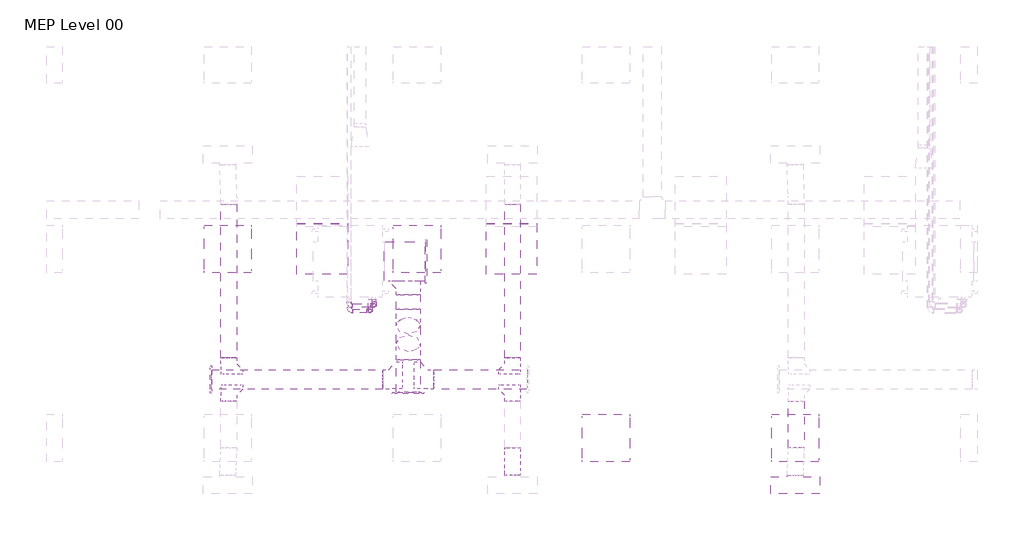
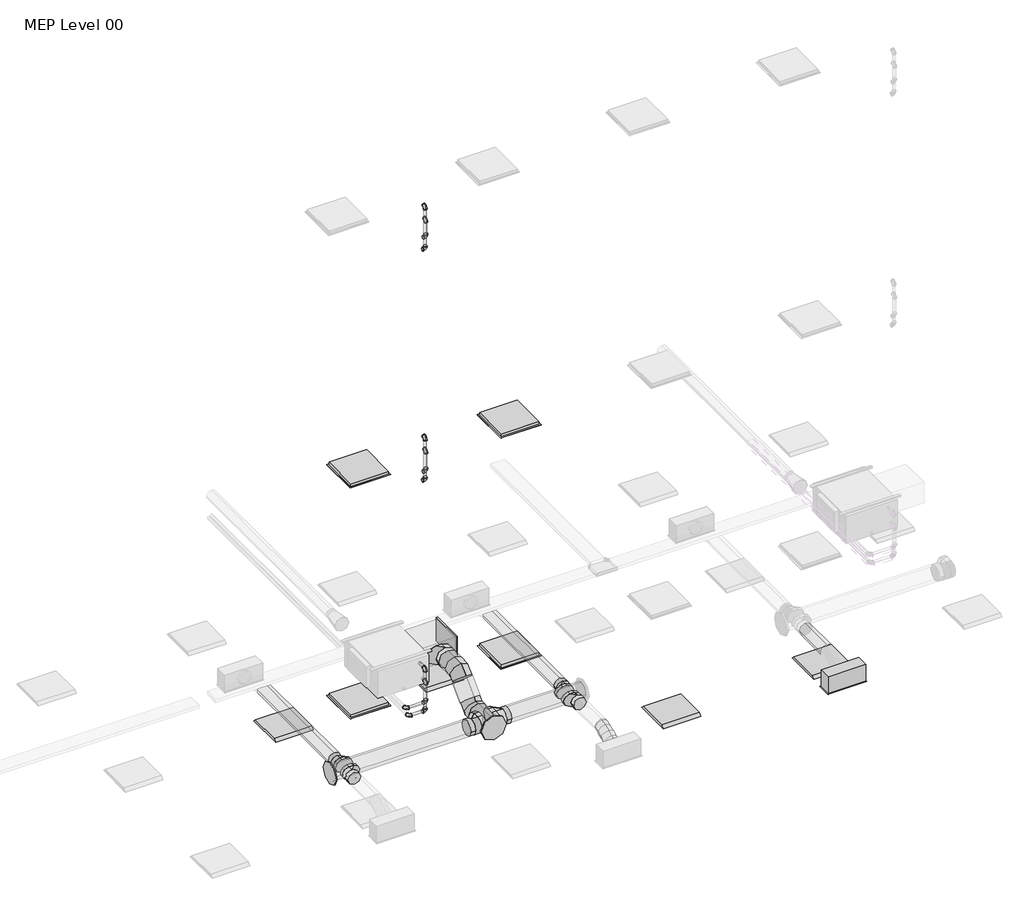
# One storey, part 8 of 33: 14 pipe fittings, 12 duct fittings, 10 duct segments, 10 pipe segments, 5 air terminals, 4 light fixtures.
"""IFC4 building model written with IfcOpenShell, lengths in millimetres."""

from ifc_helpers import new_model, si_unit, point, frame, frame_2d, origin, place, context, project, spatial, polyline, circle_curve, ellipse_curve, trimmed, segment, composite_curve, outline, extrude, transform, mapped, element, save
from ifc_brep_helpers import plane_surface, cylinder_surface, advanced_brep
from components import return_grille_rectangular_hosted_standard_7b12617c, supply_diffuser_with_plenum_linear_slot_hosted_8c379eed, dw144_rectangular_blank_end_standard_8fde7d16, dw144_round_blank_end_standard_f82b0856, dw144_round_blank_end_standard_9aa061e7, dw144_round_segmented_bend_slip_joint_standard_8b80c5ae, dw144_round_shoe_branch_slip_joint_standard_15a2edd8, dw144_round_shoe_branch_slip_joint_standard_559552f4, dw144_round_shoe_branch_slip_joint_standard_7ba9e4ed, dw144_round_shoe_branch_slip_joint_standard_67b64720, light_fixture_600x600_230_1c7c1157, light_fixture_600x600_230_b730b5ca, elbow_threaded_gmi_standard_b4aa7741

model = new_model("IFC4")

# Units and contexts
model_context = context("Model", 3, world=origin())
ifc_project = project(units=[si_unit("LENGTHUNIT", "METRE", prefix="MILLI")], contexts=[model_context])

# Site, building, storey
site = spatial("IfcSite", under=ifc_project)
building = spatial("IfcBuilding", under=site)
storey = spatial("IfcBuildingStorey", under=building, Name="MEP Level 00", Elevation=0.0)

# Air terminals
placement = place(None, origin())
return_grille_rectangular_hosted_standard_shape = return_grille_rectangular_hosted_standard_7b12617c(model_context)
element("IfcAirTerminal", 1, ObjectType="Return Grille - Rectangular - Hosted : Standard", at=placement, inside=storey, context=model_context, shape_type="MappedRepresentation", body=[
    mapped(return_grille_rectangular_hosted_standard_shape, transform((17562.2000027, 3963.2000004, 2800.0), x_axis=(1.0, 0.0, 0.0), y_axis=(0.0, -1.0, 0.0), z_axis=(0.0, 0.0, -1.0))),
])
element("IfcAirTerminal", 2, ObjectType="Return Grille - Rectangular - Hosted : Standard", at=placement, inside=storey, context=model_context, shape_type="MappedRepresentation", body=[
    mapped(return_grille_rectangular_hosted_standard_shape, transform((19962.2000027, 3963.2000004, 2800.0), x_axis=(1.0, 0.0, 0.0), y_axis=(0.0, -1.0, 0.0), z_axis=(0.0, 0.0, -1.0))),
])
element("IfcAirTerminal", 3, ObjectType="Return Grille - Rectangular - Hosted : Standard", at=placement, inside=storey, context=model_context, shape_type="MappedRepresentation", body=[
    mapped(return_grille_rectangular_hosted_standard_shape, transform((17562.2000027, 3963.2000004, 6700.0), x_axis=(1.0, 0.0, 0.0), y_axis=(0.0, -1.0, 0.0), z_axis=(0.0, 0.0, -1.0))),
])
element("IfcAirTerminal", 4, ObjectType="Return Grille - Rectangular - Hosted : Standard", at=placement, inside=storey, context=model_context, shape_type="MappedRepresentation", body=[
    mapped(return_grille_rectangular_hosted_standard_shape, transform((19962.2000027, 3963.2000004, 6700.0), x_axis=(1.0, 0.0, 0.0), y_axis=(0.0, -1.0, 0.0), z_axis=(0.0, 0.0, -1.0))),
])
supply_diffuser_with_plenum_linear_slot_hosted_shape = supply_diffuser_with_plenum_linear_slot_hosted_8c379eed(model_context)
element("IfcAirTerminal", 5, ObjectType="Supply Diffuser with Plenum - Linear Slot - Hosted : 600mmx193.8mm-200 In Inlet  4-Slot", at=placement, inside=storey, context=model_context, shape_type="MappedRepresentation", body=[
    mapped(supply_diffuser_with_plenum_linear_slot_hosted_shape, transform((23562.2000027, 963.2000004, 2800.0), x_axis=(1.0, 0.0, 0.0), y_axis=(0.0, -1.0, 0.0), z_axis=(0.0, 0.0, -1.0))),
])

# Duct fittings
dw144_rectangular_blank_end_standard_shape = dw144_rectangular_blank_end_standard_8fde7d16(model_context)
element("IfcDuctFitting", 6, ObjectType="DW144 Rectangular Blank End : Standard", at=placement, inside=storey, context=model_context, shape_type="MappedRepresentation", body=[
    mapped(dw144_rectangular_blank_end_standard_shape, transform((18866.2561025, 3806.0000004, 3476.3911538), x_axis=(1.0, 0.0, 0.0), y_axis=(0.0, 1.0, 0.0), z_axis=(0.0, 0.0, 1.0))),
])
dw144_round_blank_end_standard_shape = dw144_round_blank_end_standard_f82b0856(model_context)
element("IfcDuctFitting", 7, ObjectType="DW144 Round Blank End : Standard", at=placement, inside=storey, context=model_context, shape_type="MappedRepresentation", body=[
    mapped(dw144_round_blank_end_standard_shape, transform((18651.4561025, 2142.9916128, 3072.2088531), x_axis=(0.0, -1.0, 0.0), y_axis=(1.0, 0.0, 0.0), z_axis=(0.0, 0.0, 1.0))),
])
dw144_round_blank_end_standard_2_shape = dw144_round_blank_end_standard_9aa061e7(model_context)
element("IfcDuctFitting", 8, ObjectType="DW144 Round Blank End : Standard", at=placement, inside=storey, context=model_context, shape_type="MappedRepresentation", body=[
    mapped(dw144_round_blank_end_standard_2_shape, transform((16161.4561025, 2306.5018192, 3072.2088531), x_axis=(-1.0, 0.0, 0.0), y_axis=(0.0, -1.0, 0.0), z_axis=(0.0, 0.0, 1.0))),
])
dw144_round_segmented_bend_slip_joint_standard_shape = dw144_round_segmented_bend_slip_joint_standard_8b80c5ae(model_context)
element("IfcDuctFitting", 9, ObjectType="DW144 Round Segmented Bend - Slip Joint : Standard", at=placement, inside=storey, context=model_context, shape_type="MappedRepresentation", body=[
    mapped(dw144_round_segmented_bend_slip_joint_standard_shape, transform((18651.4561025, 2678.6338536, 3072.2088531), x_axis=(0.0, -0.7071067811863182, -0.7071067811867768), y_axis=(0.0, 0.7071067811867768, -0.7071067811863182), z_axis=(1.0, 0.0, 0.0))),
])
element("IfcDuctFitting", 10, ObjectType="DW144 Round Segmented Bend - Slip Joint : Standard", at=placement, inside=storey, context=model_context, shape_type="MappedRepresentation", body=[
    mapped(dw144_round_segmented_bend_slip_joint_standard_shape, transform((18651.4561025, 3076.0000004, 3469.575), x_axis=(0.0, -1.0, 0.0), y_axis=(0.0, 0.0, 1.0), z_axis=(-1.0, 0.0, 0.0))),
])
dw144_round_shoe_branch_slip_joint_standard_shape = dw144_round_shoe_branch_slip_joint_standard_15a2edd8(model_context)
element("IfcDuctFitting", 11, ObjectType="DW144 Round Shoe Branch - Slip Joint : Standard", at=placement, inside=storey, context=model_context, shape_type="MappedRepresentation", body=[
    mapped(dw144_round_shoe_branch_slip_joint_standard_shape, transform((16373.9000022, 2181.5018192, 3072.2088531), x_axis=(0.0, -1.0, 0.0), y_axis=(-1.0, 0.0, 0.0), z_axis=(0.0, 0.0, -1.0))),
])
element("IfcDuctFitting", 12, ObjectType="DW144 Round Shoe Branch - Slip Joint : Standard", at=placement, inside=storey, context=model_context, shape_type="MappedRepresentation", body=[
    mapped(dw144_round_shoe_branch_slip_joint_standard_shape, transform((16373.9000022, 2431.5018192, 3072.2088531), x_axis=(0.0, 1.0, 0.0), y_axis=(-1.0, 0.0, 0.0), z_axis=(0.0, 0.0, 1.0))),
])
dw144_round_shoe_branch_slip_joint_standard_2_shape = dw144_round_shoe_branch_slip_joint_standard_559552f4(model_context)
element("IfcDuctFitting", 13, ObjectType="DW144 Round Shoe Branch - Slip Joint : Standard", at=placement, inside=storey, context=model_context, shape_type="MappedRepresentation", body=[
    mapped(dw144_round_shoe_branch_slip_joint_standard_2_shape, transform((19973.9000022, 2181.5018192, 3072.2088531), x_axis=(0.0, -1.0, 0.0), y_axis=(-1.0, 0.0, 0.0), z_axis=(0.0, 0.0, -1.0))),
])
element("IfcDuctFitting", 14, ObjectType="DW144 Round Shoe Branch - Slip Joint : Standard", at=placement, inside=storey, context=model_context, shape_type="MappedRepresentation", body=[
    mapped(dw144_round_shoe_branch_slip_joint_standard_2_shape, transform((19973.9000022, 2431.5018192, 3072.2088531), x_axis=(0.0, 1.0, 0.0), y_axis=(-1.0, 0.0, 0.0), z_axis=(0.0, 0.0, 1.0))),
])
dw144_round_shoe_branch_slip_joint_standard_3_shape = dw144_round_shoe_branch_slip_joint_standard_7ba9e4ed(model_context)
element("IfcDuctFitting", 15, ObjectType="DW144 Round Shoe Branch - Slip Joint : Standard", at=placement, inside=storey, context=model_context, shape_type="MappedRepresentation", body=[
    mapped(dw144_round_shoe_branch_slip_joint_standard_3_shape, transform((18651.4561025, 3556.0000004, 3469.575), x_axis=(0.0, -1.0, 0.0), y_axis=(-1.0, 0.0, 0.0), z_axis=(0.0, 0.0, -1.0))),
])
dw144_round_shoe_branch_slip_joint_standard_4_shape = dw144_round_shoe_branch_slip_joint_standard_67b64720(model_context)
element("IfcDuctFitting", 16, ObjectType="DW144 Round Shoe Branch - Slip Joint : Standard", at=placement, inside=storey, context=model_context, shape_type="MappedRepresentation", body=[
    mapped(dw144_round_shoe_branch_slip_joint_standard_4_shape, transform((18801.4561025, 2306.5018192, 3072.2088531), x_axis=(1.0, 0.0, 0.0), y_axis=(0.0, -1.0, 0.0), z_axis=(0.0, 0.0, -1.0))),
])
element("IfcDuctFitting", 17, ObjectType="DW144 Round Shoe Branch - Slip Joint : Standard", at=placement, inside=storey, context=model_context, shape_type="MappedRepresentation", body=[
    mapped(dw144_round_shoe_branch_slip_joint_standard_4_shape, transform((18501.4561025, 2306.5018192, 3072.2088531), x_axis=(-1.0, 0.0, 0.0), y_axis=(0.0, -1.0, 0.0), z_axis=(0.0, 0.0, 1.0))),
])

# Duct segments
element("IfcDuctSegment", 18, ObjectType="DW144 Flanged Med Radius Bend / Shoe Branch", at=placement, inside=storey, context=model_context, shape_type="SweptSolid", body=[
    extrude(outline(polyline([(18346.6561025, 3556.0000004), (18346.6561025, 4056.0000004), (18866.2561025, 4056.0000004), (18866.2561025, 3556.0000004), (18346.6561025, 3556.0000004)])), frame((0.0, 0.0, 3301.3911538), z_axis=(0.0, 0.0, 1.0), x_axis=(1.0, 0.0, 0.0)), (0.0, 0.0, 1.0), 350.0),
])
element("IfcDuctSegment", 19, ObjectType="DW144 Segmented Bend / Shoe Branch", at=placement, inside=storey, context=model_context, shape_type="SweptSolid", body=[
    extrude(outline(composite_curve([segment(trimmed(circle_curve(frame_2d((3469.575, 18651.4561025)), 150.0), [point((3469.575, 18501.4561025))], [point((3319.575, 18651.4561025))], False, "CARTESIAN"), True, "CONTINUOUS"), segment(trimmed(circle_curve(frame_2d((3469.575, 18651.4561025)), 150.0), [point((3319.575, 18651.4561025))], [point((3469.575, 18801.4561025))], False, "CARTESIAN"), True, "CONTINUOUS"), segment(trimmed(circle_curve(frame_2d((3469.575, 18651.4561025)), 150.0), [point((3469.575, 18801.4561025))], [point((3619.575, 18651.4561025))], False, "CARTESIAN"), True, "CONTINUOUS"), segment(trimmed(circle_curve(frame_2d((3469.575, 18651.4561025)), 150.0), [point((3619.575, 18651.4561025))], [point((3469.575, 18501.4561025))], False, "CARTESIAN"), True, "CONTINUOUS")], self_intersect=False)), frame((0.0, 3200.2640691, 0.0), z_axis=(0.0, 1.0, 0.0), x_axis=(0.0, 0.0, 1.0)), (0.0, 0.0, 1.0), 180.7359313),
])
element("IfcDuctSegment", 20, ObjectType="DW144 Segmented Bend / Shoe Branch", at=placement, inside=storey, context=model_context, shape_type="SweptSolid", body=[
    extrude(outline(composite_curve([segment(trimmed(circle_curve(frame_2d((3072.2088531, 18651.4561025)), 150.0), [point((3072.2088531, 18501.4561025))], [point((2922.2088531, 18651.4561025))], False, "CARTESIAN"), True, "CONTINUOUS"), segment(trimmed(circle_curve(frame_2d((3072.2088531, 18651.4561025)), 150.0), [point((2922.2088531, 18651.4561025))], [point((3072.2088531, 18801.4561025))], False, "CARTESIAN"), True, "CONTINUOUS"), segment(trimmed(circle_curve(frame_2d((3072.2088531, 18651.4561025)), 150.0), [point((3072.2088531, 18801.4561025))], [point((3222.2088531, 18651.4561025))], False, "CARTESIAN"), True, "CONTINUOUS"), segment(trimmed(circle_curve(frame_2d((3072.2088531, 18651.4561025)), 150.0), [point((3222.2088531, 18651.4561025))], [point((3072.2088531, 18501.4561025))], False, "CARTESIAN"), True, "CONTINUOUS")], self_intersect=False)), frame((0.0, 2142.9916128, 0.0), z_axis=(0.0, 1.0, 0.0), x_axis=(0.0, 0.0, 1.0)), (0.0, 0.0, 1.0), 411.3781721),
])
element("IfcDuctSegment", 21, ObjectType="DW144 Segmented Bend / Shoe Branch", at=placement, inside=storey, context=model_context, shape_type="SweptSolid", body=[
    extrude(outline(composite_curve([segment(trimmed(circle_curve(frame_2d((0.0, -150.0)), 150.0), [point((-150.0, -150.0))], [point((0.0, 0.0))], False, "CARTESIAN"), True, "CONTINUOUS"), segment(trimmed(circle_curve(frame_2d((0.0, -150.0)), 150.0), [point((0.0, 0.0))], [point((150.0, -150.0))], False, "CARTESIAN"), True, "CONTINUOUS"), segment(trimmed(circle_curve(frame_2d((0.0, -150.0)), 150.0), [point((150.0, -150.0))], [point((0.0, -300.0))], False, "CARTESIAN"), True, "CONTINUOUS"), segment(trimmed(circle_curve(frame_2d((0.0, -150.0)), 150.0), [point((0.0, -300.0))], [point((-150.0, -150.0))], False, "CARTESIAN"), True, "CONTINUOUS")], self_intersect=False)), frame((18651.4561025, 2872.5678364, 3054.0108016), z_axis=(0.0, 0.7071067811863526, 0.7071067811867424), x_axis=(1.0, 0.0, 0.0)), (0.0, 0.0, 1.0), 313.4324567),
])
element("IfcDuctSegment", 22, ObjectType="DW144 Segmented Bend / Shoe Branch", at=placement, inside=storey, context=model_context, shape_type="SweptSolid", body=[
    extrude(outline(composite_curve([segment(trimmed(circle_curve(frame_2d((2306.5018192, 3072.2088531)), 125.0), [point((2181.5018192, 3072.2088531))], [point((2306.5018192, 3197.2088531))], False, "CARTESIAN"), True, "CONTINUOUS"), segment(trimmed(circle_curve(frame_2d((2306.5018192, 3072.2088531)), 125.0), [point((2306.5018192, 3197.2088531))], [point((2431.5018192, 3072.2088531))], False, "CARTESIAN"), True, "CONTINUOUS"), segment(trimmed(circle_curve(frame_2d((2306.5018192, 3072.2088531)), 125.0), [point((2431.5018192, 3072.2088531))], [point((2306.5018192, 2947.2088531))], False, "CARTESIAN"), True, "CONTINUOUS"), segment(trimmed(circle_curve(frame_2d((2306.5018192, 3072.2088531)), 125.0), [point((2306.5018192, 2947.2088531))], [point((2181.5018192, 3072.2088531))], False, "CARTESIAN"), True, "CONTINUOUS")], self_intersect=False)), frame((18976.4561025, 0.0, 0.0), z_axis=(1.0, 0.0, 0.0), x_axis=(0.0, 1.0, 0.0)), (0.0, 0.0, 1.0), 1185.0),
])
element("IfcDuctSegment", 23, ObjectType="DW144 Segmented Bend / Shoe Branch", at=placement, inside=storey, context=model_context, shape_type="SweptSolid", body=[
    extrude(outline(composite_curve([segment(trimmed(circle_curve(frame_2d((2306.5018192, 3072.2088531)), 125.0), [point((2431.5018192, 3072.2088531))], [point((2306.5018192, 2947.2088531))], False, "CARTESIAN"), True, "CONTINUOUS"), segment(trimmed(circle_curve(frame_2d((2306.5018192, 3072.2088531)), 125.0), [point((2306.5018192, 2947.2088531))], [point((2181.5018192, 3072.2088531))], False, "CARTESIAN"), True, "CONTINUOUS"), segment(trimmed(circle_curve(frame_2d((2306.5018192, 3072.2088531)), 125.0), [point((2181.5018192, 3072.2088531))], [point((2306.5018192, 3197.2088531))], False, "CARTESIAN"), True, "CONTINUOUS"), segment(trimmed(circle_curve(frame_2d((2306.5018192, 3072.2088531)), 125.0), [point((2306.5018192, 3197.2088531))], [point((2431.5018192, 3072.2088531))], False, "CARTESIAN"), True, "CONTINUOUS")], self_intersect=False)), frame((16161.4561025, 0.0, 0.0), z_axis=(1.0, 0.0, 0.0), x_axis=(0.0, 1.0, 0.0)), (0.0, 0.0, 1.0), 2165.0),
])
element("IfcDuctSegment", 24, ObjectType="DW144 Segmented Bend / Shoe Branch", at=placement, inside=storey, context=model_context, shape_type="SweptSolid", body=[
    extrude(outline(composite_curve([segment(trimmed(circle_curve(frame_2d((3072.2088531, 19973.9000022)), 100.0), [point((3072.2088531, 20073.9000022))], [point((3172.2088531, 19973.9000022))], False, "CARTESIAN"), True, "CONTINUOUS"), segment(trimmed(circle_curve(frame_2d((3072.2088531, 19973.9000022)), 100.0), [point((3172.2088531, 19973.9000022))], [point((3072.2088531, 19873.9000022))], False, "CARTESIAN"), True, "CONTINUOUS"), segment(trimmed(circle_curve(frame_2d((3072.2088531, 19973.9000022)), 100.0), [point((3072.2088531, 19873.9000022))], [point((2972.2088531, 19973.9000022))], False, "CARTESIAN"), True, "CONTINUOUS"), segment(trimmed(circle_curve(frame_2d((3072.2088531, 19973.9000022)), 100.0), [point((2972.2088531, 19973.9000022))], [point((3072.2088531, 20073.9000022))], False, "CARTESIAN"), True, "CONTINUOUS")], self_intersect=False)), frame((0.0, 2581.5018192, 0.0), z_axis=(0.0, 1.0, 0.0), x_axis=(0.0, 0.0, 1.0)), (0.0, 0.0, 1.0), 1950.0),
])
element("IfcDuctSegment", 25, ObjectType="DW144 Segmented Bend / Shoe Branch", at=placement, inside=storey, context=model_context, shape_type="SweptSolid", body=[
    extrude(outline(composite_curve([segment(trimmed(circle_curve(frame_2d((3072.2088531, 16373.9000022)), 100.0), [point((3072.2088531, 16473.9000022))], [point((3172.2088531, 16373.9000022))], False, "CARTESIAN"), True, "CONTINUOUS"), segment(trimmed(circle_curve(frame_2d((3072.2088531, 16373.9000022)), 100.0), [point((3172.2088531, 16373.9000022))], [point((3072.2088531, 16273.9000022))], False, "CARTESIAN"), True, "CONTINUOUS"), segment(trimmed(circle_curve(frame_2d((3072.2088531, 16373.9000022)), 100.0), [point((3072.2088531, 16273.9000022))], [point((2972.2088531, 16373.9000022))], False, "CARTESIAN"), True, "CONTINUOUS"), segment(trimmed(circle_curve(frame_2d((3072.2088531, 16373.9000022)), 100.0), [point((2972.2088531, 16373.9000022))], [point((3072.2088531, 16473.9000022))], False, "CARTESIAN"), True, "CONTINUOUS")], self_intersect=False)), frame((0.0, 2581.5018192, 0.0), z_axis=(0.0, 1.0, 0.0), x_axis=(0.0, 0.0, 1.0)), (0.0, 0.0, 1.0), 1950.0),
])
element("IfcDuctSegment", 26, ObjectType="DW144 Segmented Bend / Shoe Branch", at=placement, inside=storey, context=model_context, shape_type="SweptSolid", body=[
    extrude(outline(composite_curve([segment(trimmed(circle_curve(frame_2d((3072.2088531, 23573.9000022)), 100.0), [point((3072.2088531, 23673.9000022))], [point((3172.2088531, 23573.9000022))], False, "CARTESIAN"), True, "CONTINUOUS"), segment(trimmed(circle_curve(frame_2d((3072.2088531, 23573.9000022)), 100.0), [point((3172.2088531, 23573.9000022))], [point((3072.2088531, 23473.9000022))], False, "CARTESIAN"), True, "CONTINUOUS"), segment(trimmed(circle_curve(frame_2d((3072.2088531, 23573.9000022)), 100.0), [point((3072.2088531, 23473.9000022))], [point((2972.2088531, 23573.9000022))], False, "CARTESIAN"), True, "CONTINUOUS"), segment(trimmed(circle_curve(frame_2d((3072.2088531, 23573.9000022)), 100.0), [point((2972.2088531, 23573.9000022))], [point((3072.2088531, 23673.9000022))], False, "CARTESIAN"), True, "CONTINUOUS")], self_intersect=False)), frame((0.0, 1441.5018192, 0.0), z_axis=(0.0, 1.0, 0.0), x_axis=(0.0, 0.0, 1.0)), (0.0, 0.0, 1.0), 590.0),
])
element("IfcDuctSegment", 27, ObjectType="Flex - Round", at=placement, inside=storey, context=model_context, shape_type="AdvancedBrep", body=[
    advanced_brep(
    [(20073.9000022, 1441.5018192, 3072.2088531), (19973.9000022, 1441.5018192, 2972.2088531), (19873.9000022, 1441.5018192, 3072.2088531), (19973.9000022, 1441.5018192, 3172.2088531), (20073.9000022, 1421.2831204, 3072.2088531), (19973.9000022, 1434.4030998, 2972.2088531), (19873.9000022, 1421.2831204, 3072.2088531), (19973.9000022, 1408.1631411, 3172.2088531), (20073.9000022, 1092.1000004, 2954.4), (19973.9000022, 1092.1000004, 3054.4), (19873.9000022, 1092.1000004, 2954.4), (19973.9000022, 1092.1000004, 2854.4), (20073.9000022, 1352.3395072, 3053.8012198), (19973.9000022, 1386.9157373, 2959.5299419), (19873.9000022, 1352.3395072, 3053.8012198), (19973.9000022, 1317.7632771, 3148.0724978), (20073.9000022, 1266.8009098, 3013.3044266), (19973.9000022, 1309.5909979, 2922.9218599), (19873.9000022, 1266.8009098, 3013.3044266), (19973.9000022, 1224.0108217, 3103.6869932), (20073.9000022, 1181.2623124, 2972.8076333), (19973.9000022, 1215.8385426, 2878.5363553), (19873.9000022, 1181.2623124, 2972.8076333), (19973.9000022, 1146.6860823, 3067.0789113), (20073.9000022, 1112.3186992, 2954.4), (19973.9000022, 1125.4386785, 2854.4), (19873.9000022, 1112.3186992, 2954.4), (19973.9000022, 1099.1987199, 3054.4)],
    [
        (0, 1, circle_curve(frame((19973.9000022, 1441.5018192, 3072.2088531), z_axis=(0.0, 1.0, 0.0), x_axis=(1.0, 0.0, 0.0)), 100.0)),
        (1, 2, circle_curve(frame((19973.9000022, 1441.5018192, 3072.2088531), z_axis=(0.0, 1.0, 0.0), x_axis=(1.0, 0.0, 0.0)), 100.0)),
        (2, 3, circle_curve(frame((19973.9000022, 1441.5018192, 3072.2088531), z_axis=(0.0, 1.0, 0.0), x_axis=(1.0, 0.0, 0.0)), 100.0)),
        (3, 0, circle_curve(frame((19973.9000022, 1441.5018192, 3072.2088531), z_axis=(0.0, 1.0, 0.0), x_axis=(1.0, 0.0, 0.0)), 100.0)),
        (0, 4),
        (4, 5, ellipse_curve(frame((19973.9000022, 1421.2831204, 3072.2088531), z_axis=(0.0, 0.9915028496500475, 0.1300849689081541), x_axis=(0.0, 0.13008496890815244, -0.9915028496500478)), 100.8569971, 100.0)),
        (5, 1),
        (5, 6, ellipse_curve(frame((19973.9000022, 1421.2831204, 3072.2088531), z_axis=(0.0, 0.9915028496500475, 0.1300849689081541), x_axis=(0.0, 0.13008496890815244, -0.9915028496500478)), 100.8569971, 100.0)),
        (6, 2),
        (6, 7, ellipse_curve(frame((19973.9000022, 1421.2831204, 3072.2088531), z_axis=(0.0, 0.9915028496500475, 0.1300849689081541), x_axis=(0.0, 0.13008496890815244, -0.9915028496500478)), 100.8569971, 100.0)),
        (7, 3),
        (7, 4, ellipse_curve(frame((19973.9000022, 1421.2831204, 3072.2088531), z_axis=(0.0, 0.9915028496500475, 0.1300849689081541), x_axis=(0.0, 0.13008496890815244, -0.9915028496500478)), 100.8569971, 100.0)),
        (8, 9, circle_curve(frame((19973.9000022, 1092.1000004, 2954.4), z_axis=(0.0, -1.0, 0.0), x_axis=(1.0, 0.0, 0.0)), 100.0)),
        (9, 10, circle_curve(frame((19973.9000022, 1092.1000004, 2954.4), z_axis=(0.0, -1.0, 0.0), x_axis=(1.0, 0.0, 0.0)), 100.0)),
        (10, 11, circle_curve(frame((19973.9000022, 1092.1000004, 2954.4), z_axis=(0.0, -1.0, 0.0), x_axis=(1.0, 0.0, 0.0)), 100.0)),
        (11, 8, circle_curve(frame((19973.9000022, 1092.1000004, 2954.4), z_axis=(0.0, -1.0, 0.0), x_axis=(1.0, 0.0, 0.0)), 100.0)),
        (4, 12),
        (12, 13, ellipse_curve(frame((19973.9000022, 1352.3395072, 3053.8012198), z_axis=(0.0, 0.9388438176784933, 0.34434326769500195), x_axis=(0.0, 0.344343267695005, -0.9388438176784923)), 100.4120986, 100.0)),
        (13, 5),
        (13, 14, ellipse_curve(frame((19973.9000022, 1352.3395072, 3053.8012198), z_axis=(0.0, 0.9388438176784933, 0.34434326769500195), x_axis=(0.0, 0.344343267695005, -0.9388438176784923)), 100.4120986, 100.0)),
        (14, 6),
        (14, 15, ellipse_curve(frame((19973.9000022, 1352.3395072, 3053.8012198), z_axis=(0.0, 0.9388438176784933, 0.34434326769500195), x_axis=(0.0, 0.344343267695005, -0.9388438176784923)), 100.4120986, 100.0)),
        (15, 7),
        (15, 12, ellipse_curve(frame((19973.9000022, 1352.3395072, 3053.8012198), z_axis=(0.0, 0.9388438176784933, 0.34434326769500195), x_axis=(0.0, 0.344343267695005, -0.9388438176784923)), 100.4120986, 100.0)),
        (12, 16),
        (16, 17, circle_curve(frame((19973.9000022, 1266.8009098, 3013.3044266), z_axis=(0.0, 0.903825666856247, 0.42790088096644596), x_axis=(1.0, 0.0, 0.0)), 100.0)),
        (17, 13),
        (17, 18, circle_curve(frame((19973.9000022, 1266.8009098, 3013.3044266), z_axis=(0.0, 0.903825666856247, 0.42790088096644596), x_axis=(1.0, 0.0, 0.0)), 100.0)),
        (18, 14),
        (18, 19, circle_curve(frame((19973.9000022, 1266.8009098, 3013.3044266), z_axis=(0.0, 0.903825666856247, 0.42790088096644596), x_axis=(1.0, 0.0, 0.0)), 100.0)),
        (19, 15),
        (19, 16, circle_curve(frame((19973.9000022, 1266.8009098, 3013.3044266), z_axis=(0.0, 0.903825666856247, 0.42790088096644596), x_axis=(1.0, 0.0, 0.0)), 100.0)),
        (16, 20),
        (20, 21, ellipse_curve(frame((19973.9000022, 1181.2623124, 2972.8076333), z_axis=(0.0, 0.9388438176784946, 0.3443432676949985), x_axis=(0.0, -0.34434326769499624, 0.9388438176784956)), 100.4120986, 100.0)),
        (21, 17),
        (21, 22, ellipse_curve(frame((19973.9000022, 1181.2623124, 2972.8076333), z_axis=(0.0, 0.9388438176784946, 0.3443432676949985), x_axis=(0.0, -0.34434326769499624, 0.9388438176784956)), 100.4120986, 100.0)),
        (22, 18),
        (22, 23, ellipse_curve(frame((19973.9000022, 1181.2623124, 2972.8076333), z_axis=(0.0, 0.9388438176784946, 0.3443432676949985), x_axis=(0.0, -0.34434326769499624, 0.9388438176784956)), 100.4120986, 100.0)),
        (23, 19),
        (23, 20, ellipse_curve(frame((19973.9000022, 1181.2623124, 2972.8076333), z_axis=(0.0, 0.9388438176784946, 0.3443432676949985), x_axis=(0.0, -0.34434326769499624, 0.9388438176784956)), 100.4120986, 100.0)),
        (20, 24),
        (24, 25, ellipse_curve(frame((19973.9000022, 1112.3186992, 2954.4), z_axis=(0.0, 0.9915028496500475, 0.13008496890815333), x_axis=(0.0, -0.13008496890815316, 0.9915028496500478)), 100.8569971, 100.0)),
        (25, 21),
        (25, 26, ellipse_curve(frame((19973.9000022, 1112.3186992, 2954.4), z_axis=(0.0, 0.9915028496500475, 0.13008496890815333), x_axis=(0.0, -0.13008496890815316, 0.9915028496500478)), 100.8569971, 100.0)),
        (26, 22),
        (26, 27, ellipse_curve(frame((19973.9000022, 1112.3186992, 2954.4), z_axis=(0.0, 0.9915028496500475, 0.13008496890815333), x_axis=(0.0, -0.13008496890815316, 0.9915028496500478)), 100.8569971, 100.0)),
        (27, 23),
        (27, 24, ellipse_curve(frame((19973.9000022, 1112.3186992, 2954.4), z_axis=(0.0, 0.9915028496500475, 0.13008496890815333), x_axis=(0.0, -0.13008496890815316, 0.9915028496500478)), 100.8569971, 100.0)),
        (24, 8),
        (11, 25),
        (10, 26),
        (9, 27),
    ],
    [
        plane_surface(frame((19873.9000022, 1441.5018192, 3072.2088531), z_axis=(0.0, 1.0, 0.0), x_axis=(0.0, 0.0, -1.0))),
        cylinder_surface(frame((19973.9000022, 1441.5018192, 3072.2088531), z_axis=(0.0, 1.0, 0.0), x_axis=(1.0, 0.0, 0.0)), 100.0),
        plane_surface(frame((19873.9000022, 1092.1000004, 2954.4), z_axis=(0.0, -1.0, 0.0), x_axis=(0.0, 0.0, -1.0))),
        cylinder_surface(frame((19973.9000022, 1421.2831204, 3072.2088531), z_axis=(0.0, 0.9661558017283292, 0.2579592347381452), x_axis=(1.0, 0.0, 0.0)), 100.0),
        cylinder_surface(frame((19973.9000022, 1352.3395072, 3053.8012198), z_axis=(0.0, 0.903825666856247, 0.42790088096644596), x_axis=(1.0, 0.0, 0.0)), 100.0),
        cylinder_surface(frame((19973.9000022, 1266.8009098, 3013.3044266), z_axis=(0.0, 0.9038256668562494, 0.42790088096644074), x_axis=(1.0, 0.0, 0.0)), 100.0),
        cylinder_surface(frame((19973.9000022, 1181.2623124, 2972.8076333), z_axis=(0.0, 0.9661558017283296, 0.25795923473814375), x_axis=(1.0, 0.0, 0.0)), 100.0),
        cylinder_surface(frame((19973.9000022, 1112.3186992, 2954.4), z_axis=(0.0, 1.0, 0.0), x_axis=(1.0, 0.0, 0.0)), 100.0),
    ],
    [
        (0, [[1, 2, 3, 4]]),
        (1, [[-1, 5, 6, 7]]),
        (1, [[-2, -7, 8, 9]]),
        (1, [[-3, -9, 10, 11]]),
        (1, [[-4, -11, 12, -5]]),
        (2, [[13, 14, 15, 16]]),
        (3, [[-6, 17, 18, 19]]),
        (3, [[-8, -19, 20, 21]]),
        (3, [[-10, -21, 22, 23]]),
        (3, [[-12, -23, 24, -17]]),
        (4, [[-18, 25, 26, 27]]),
        (4, [[-20, -27, 28, 29]]),
        (4, [[-22, -29, 30, 31]]),
        (4, [[-24, -31, 32, -25]]),
        (5, [[-26, 33, 34, 35]]),
        (5, [[-28, -35, 36, 37]]),
        (5, [[-30, -37, 38, 39]]),
        (5, [[-32, -39, 40, -33]]),
        (6, [[-34, 41, 42, 43]]),
        (6, [[-36, -43, 44, 45]]),
        (6, [[-38, -45, 46, 47]]),
        (6, [[-40, -47, 48, -41]]),
        (7, [[-42, 49, -16, 50]]),
        (7, [[-44, -50, -15, 51]]),
        (7, [[-46, -51, -14, 52]]),
        (7, [[-48, -52, -13, -49]]),
    ],
),
])

# Light fixtures
light_fixture_600x600_230_shape = light_fixture_600x600_230_1c7c1157(model_context)
element("IfcLightFixture", 28, ObjectType="ELEKTRA Recessed Lighting Fixture : 600x600 - 230", at=placement, inside=storey, context=model_context, shape_type="MappedRepresentation", body=[
    mapped(light_fixture_600x600_230_shape, transform((20862.2000027, 1263.2000004, 2800.0), x_axis=(1.0, 0.0, 0.0), y_axis=(0.0, -1.0, 0.0), z_axis=(0.0, 0.0, -1.0))),
])
element("IfcLightFixture", 29, ObjectType="ELEKTRA Recessed Lighting Fixture : 600x600 - 230", at=placement, inside=storey, context=model_context, shape_type="MappedRepresentation", body=[
    mapped(light_fixture_600x600_230_shape, transform((23262.2000027, 1263.2000004, 2800.0), x_axis=(1.0, 0.0, 0.0), y_axis=(0.0, -1.0, 0.0), z_axis=(0.0, 0.0, -1.0))),
])
element("IfcLightFixture", 30, ObjectType="ELEKTRA Recessed Lighting Fixture : 600x600 - 230", at=placement, inside=storey, context=model_context, shape_type="MappedRepresentation", body=[
    mapped(light_fixture_600x600_230_shape, transform((16062.2000027, 3663.2000004, 2800.0), x_axis=(1.0, 0.0, 0.0), y_axis=(0.0, -1.0, 0.0), z_axis=(0.0, 0.0, -1.0))),
])
light_fixture_600x600_230_2_shape = light_fixture_600x600_230_b730b5ca(model_context)
element("IfcLightFixture", 31, ObjectType="ELEKTRA EM Recessed Lighting Fixture : 600x600 - 230", at=placement, inside=storey, context=model_context, shape_type="MappedRepresentation", body=[
    mapped(light_fixture_600x600_230_2_shape, transform((18462.2000027, 3663.2000004, 2800.0), x_axis=(1.0, 0.0, 0.0), y_axis=(0.0, -1.0, 0.0), z_axis=(0.0, 0.0, -1.0))),
])

# Pipe fittings
elbow_threaded_gmi_standard_shape = elbow_threaded_gmi_standard_b4aa7741(model_context)
element("IfcPipeFitting", 32, ObjectType="Elbow - Threaded - GMI : Standard", at=placement, inside=storey, context=model_context, shape_type="MappedRepresentation", body=[
    mapped(elbow_threaded_gmi_standard_shape, transform((18168.8561025, 3177.232951, 10693.9343179), x_axis=(0.0, 0.0, -1.0), y_axis=(-1.0, 0.0, 0.0), z_axis=(0.0, 1.0, 0.0))),
])
element("IfcPipeFitting", 33, ObjectType="Elbow - Threaded - GMI : Standard", at=placement, inside=storey, context=model_context, shape_type="MappedRepresentation", body=[
    mapped(elbow_threaded_gmi_standard_shape, transform((18219.6561025, 3246.7427522, 10834.6193977), x_axis=(0.0, 0.0, -1.0), y_axis=(-1.0, 0.0, 0.0), z_axis=(0.0, 1.0, 0.0))),
])
element("IfcPipeFitting", 34, ObjectType="Elbow - Threaded - GMI : Standard", at=placement, inside=storey, context=model_context, shape_type="MappedRepresentation", body=[
    mapped(elbow_threaded_gmi_standard_shape, transform((18219.6561025, 3246.7427522, 11123.9911538), x_axis=(0.0, 0.0, 1.0), y_axis=(0.0, 1.0, 0.0), z_axis=(-1.0, 0.0, 0.0))),
])
element("IfcPipeFitting", 35, ObjectType="Elbow - Threaded - GMI : Standard", at=placement, inside=storey, context=model_context, shape_type="MappedRepresentation", body=[
    mapped(elbow_threaded_gmi_standard_shape, transform((18168.8561025, 3177.232951, 11403.3911538), x_axis=(0.0, 0.0, 1.0), y_axis=(0.0, 1.0, 0.0), z_axis=(-1.0, 0.0, 0.0))),
])
element("IfcPipeFitting", 36, ObjectType="Elbow - Threaded - GMI : Standard", at=placement, inside=storey, context=model_context, shape_type="MappedRepresentation", body=[
    mapped(elbow_threaded_gmi_standard_shape, transform((18168.8561025, 3177.232951, 6793.9343179), x_axis=(0.0, 0.0, -1.0), y_axis=(-1.0, 0.0, 0.0), z_axis=(0.0, 1.0, 0.0))),
])
element("IfcPipeFitting", 37, ObjectType="Elbow - Threaded - GMI : Standard", at=placement, inside=storey, context=model_context, shape_type="MappedRepresentation", body=[
    mapped(elbow_threaded_gmi_standard_shape, transform((18219.6561025, 3246.7427522, 6880.0), x_axis=(0.0, 0.0, -1.0), y_axis=(-1.0, 0.0, 0.0), z_axis=(0.0, 1.0, 0.0))),
])
element("IfcPipeFitting", 38, ObjectType="Elbow - Threaded - GMI : Standard", at=placement, inside=storey, context=model_context, shape_type="MappedRepresentation", body=[
    mapped(elbow_threaded_gmi_standard_shape, transform((18168.8561025, 3177.232951, 7503.3911538), x_axis=(0.0, 0.0, 1.0), y_axis=(0.0, 1.0, 0.0), z_axis=(-1.0, 0.0, 0.0))),
])
element("IfcPipeFitting", 39, ObjectType="Elbow - Threaded - GMI : Standard", at=placement, inside=storey, context=model_context, shape_type="MappedRepresentation", body=[
    mapped(elbow_threaded_gmi_standard_shape, transform((18219.6561025, 3246.7427522, 7223.9911538), x_axis=(0.0, 0.0, 1.0), y_axis=(0.0, 1.0, 0.0), z_axis=(-1.0, 0.0, 0.0))),
])
element("IfcPipeFitting", 40, ObjectType="Elbow - Threaded - GMI : Standard", at=placement, inside=storey, context=model_context, shape_type="MappedRepresentation", body=[
    mapped(elbow_threaded_gmi_standard_shape, transform((18168.8561025, 3177.232951, 2893.9343179), x_axis=(0.0, 0.0, -1.0), y_axis=(-1.0, 0.0, 0.0), z_axis=(0.0, 1.0, 0.0))),
])
element("IfcPipeFitting", 41, ObjectType="Elbow - Threaded - GMI : Standard", at=placement, inside=storey, context=model_context, shape_type="MappedRepresentation", body=[
    mapped(elbow_threaded_gmi_standard_shape, transform((17903.0774681, 3177.232951, 2893.9343179), x_axis=(0.0, -1.0, 0.0), y_axis=(1.0, 0.0, 0.0), z_axis=(0.0, 0.0, 1.0))),
])
element("IfcPipeFitting", 42, ObjectType="Elbow - Threaded - GMI : Standard", at=placement, inside=storey, context=model_context, shape_type="MappedRepresentation", body=[
    mapped(elbow_threaded_gmi_standard_shape, transform((18219.6561025, 3246.7427522, 2980.0), x_axis=(0.0, 0.0, -1.0), y_axis=(-1.0, 0.0, 0.0), z_axis=(0.0, 1.0, 0.0))),
])
element("IfcPipeFitting", 43, ObjectType="Elbow - Threaded - GMI : Standard", at=placement, inside=storey, context=model_context, shape_type="MappedRepresentation", body=[
    mapped(elbow_threaded_gmi_standard_shape, transform((17898.7529576, 3246.7427522, 2980.0), x_axis=(0.0, -1.0, 0.0), y_axis=(1.0, 0.0, 0.0), z_axis=(0.0, 0.0, 1.0))),
])
element("IfcPipeFitting", 44, ObjectType="Elbow - Threaded - GMI : Standard", at=placement, inside=storey, context=model_context, shape_type="MappedRepresentation", body=[
    mapped(elbow_threaded_gmi_standard_shape, transform((18168.8561025, 3177.232951, 3603.3911538), x_axis=(0.0, 0.0, 1.0), y_axis=(0.0, 1.0, 0.0), z_axis=(-1.0, 0.0, 0.0))),
])
element("IfcPipeFitting", 45, ObjectType="Elbow - Threaded - GMI : Standard", at=placement, inside=storey, context=model_context, shape_type="MappedRepresentation", body=[
    mapped(elbow_threaded_gmi_standard_shape, transform((18219.6561025, 3246.7427522, 3323.9911538), x_axis=(0.0, 0.0, 1.0), y_axis=(0.0, 1.0, 0.0), z_axis=(-1.0, 0.0, 0.0))),
])

# Pipe segments
element("IfcPipeSegment", 46, ObjectType="Carbon Steel - Threaded", at=placement, inside=storey, context=model_context, shape_type="SweptSolid", body=[
    extrude(outline(composite_curve([segment(trimmed(circle_curve(frame_2d((18168.8561025, 3177.232951)), 21.45), [point((18190.3061025, 3177.232951))], [point((18168.8561025, 3155.782951))], False, "CARTESIAN"), True, "CONTINUOUS"), segment(trimmed(circle_curve(frame_2d((18168.8561025, 3177.232951)), 21.45), [point((18168.8561025, 3155.782951))], [point((18147.4061025, 3177.232951))], False, "CARTESIAN"), True, "CONTINUOUS"), segment(trimmed(circle_curve(frame_2d((18168.8561025, 3177.232951)), 21.45), [point((18147.4061025, 3177.232951))], [point((18168.8561025, 3198.682951))], False, "CARTESIAN"), True, "CONTINUOUS"), segment(trimmed(circle_curve(frame_2d((18168.8561025, 3177.232951)), 21.45), [point((18168.8561025, 3198.682951))], [point((18190.3061025, 3177.232951))], False, "CARTESIAN"), True, "CONTINUOUS")], self_intersect=False)), frame((0.0, 0.0, 10738.9343179), z_axis=(0.0, 0.0, 1.0), x_axis=(1.0, 0.0, 0.0)), (0.0, 0.0, 1.0), 619.4568359),
])
element("IfcPipeSegment", 47, ObjectType="Carbon Steel - Threaded", at=placement, inside=storey, context=model_context, shape_type="SweptSolid", body=[
    extrude(outline(composite_curve([segment(trimmed(circle_curve(frame_2d((18219.6561025, 3246.7427522)), 21.45), [point((18241.1061025, 3246.7427522))], [point((18219.6561025, 3225.2927522))], False, "CARTESIAN"), True, "CONTINUOUS"), segment(trimmed(circle_curve(frame_2d((18219.6561025, 3246.7427522)), 21.45), [point((18219.6561025, 3225.2927522))], [point((18198.2061025, 3246.7427522))], False, "CARTESIAN"), True, "CONTINUOUS"), segment(trimmed(circle_curve(frame_2d((18219.6561025, 3246.7427522)), 21.45), [point((18198.2061025, 3246.7427522))], [point((18219.6561025, 3268.1927522))], False, "CARTESIAN"), True, "CONTINUOUS"), segment(trimmed(circle_curve(frame_2d((18219.6561025, 3246.7427522)), 21.45), [point((18219.6561025, 3268.1927522))], [point((18241.1061025, 3246.7427522))], False, "CARTESIAN"), True, "CONTINUOUS")], self_intersect=False)), frame((0.0, 0.0, 10879.6193977), z_axis=(0.0, 0.0, 1.0), x_axis=(1.0, 0.0, 0.0)), (0.0, 0.0, 1.0), 199.3717561),
])
element("IfcPipeSegment", 48, ObjectType="Carbon Steel - Threaded", at=placement, inside=storey, context=model_context, shape_type="SweptSolid", body=[
    extrude(outline(composite_curve([segment(trimmed(circle_curve(frame_2d((18168.8561025, 3177.232951)), 21.45), [point((18190.3061025, 3177.232951))], [point((18168.8561025, 3155.782951))], False, "CARTESIAN"), True, "CONTINUOUS"), segment(trimmed(circle_curve(frame_2d((18168.8561025, 3177.232951)), 21.45), [point((18168.8561025, 3155.782951))], [point((18147.4061025, 3177.232951))], False, "CARTESIAN"), True, "CONTINUOUS"), segment(trimmed(circle_curve(frame_2d((18168.8561025, 3177.232951)), 21.45), [point((18147.4061025, 3177.232951))], [point((18168.8561025, 3198.682951))], False, "CARTESIAN"), True, "CONTINUOUS"), segment(trimmed(circle_curve(frame_2d((18168.8561025, 3177.232951)), 21.45), [point((18168.8561025, 3198.682951))], [point((18190.3061025, 3177.232951))], False, "CARTESIAN"), True, "CONTINUOUS")], self_intersect=False)), frame((0.0, 0.0, 6838.9343179), z_axis=(0.0, 0.0, 1.0), x_axis=(1.0, 0.0, 0.0)), (0.0, 0.0, 1.0), 619.4568359),
])
element("IfcPipeSegment", 49, ObjectType="Carbon Steel - Threaded", at=placement, inside=storey, context=model_context, shape_type="SweptSolid", body=[
    extrude(outline(composite_curve([segment(trimmed(circle_curve(frame_2d((18219.6561025, 3246.7427522)), 21.45), [point((18241.1061025, 3246.7427522))], [point((18219.6561025, 3225.2927522))], False, "CARTESIAN"), True, "CONTINUOUS"), segment(trimmed(circle_curve(frame_2d((18219.6561025, 3246.7427522)), 21.45), [point((18219.6561025, 3225.2927522))], [point((18198.2061025, 3246.7427522))], False, "CARTESIAN"), True, "CONTINUOUS"), segment(trimmed(circle_curve(frame_2d((18219.6561025, 3246.7427522)), 21.45), [point((18198.2061025, 3246.7427522))], [point((18219.6561025, 3268.1927522))], False, "CARTESIAN"), True, "CONTINUOUS"), segment(trimmed(circle_curve(frame_2d((18219.6561025, 3246.7427522)), 21.45), [point((18219.6561025, 3268.1927522))], [point((18241.1061025, 3246.7427522))], False, "CARTESIAN"), True, "CONTINUOUS")], self_intersect=False)), frame((0.0, 0.0, 6925.0), z_axis=(0.0, 0.0, 1.0), x_axis=(1.0, 0.0, 0.0)), (0.0, 0.0, 1.0), 253.9911538),
])
element("IfcPipeSegment", 50, ObjectType="Carbon Steel - Threaded", at=placement, inside=storey, context=model_context, shape_type="SweptSolid", body=[
    extrude(outline(composite_curve([segment(trimmed(circle_curve(frame_2d((3323.9911538, 18219.6561025)), 21.45), [point((3323.9911538, 18241.1061025))], [point((3345.4411538, 18219.6561025))], False, "CARTESIAN"), True, "CONTINUOUS"), segment(trimmed(circle_curve(frame_2d((3323.9911538, 18219.6561025)), 21.45), [point((3345.4411538, 18219.6561025))], [point((3323.9911538, 18198.2061025))], False, "CARTESIAN"), True, "CONTINUOUS"), segment(trimmed(circle_curve(frame_2d((3323.9911538, 18219.6561025)), 21.45), [point((3323.9911538, 18198.2061025))], [point((3302.5411538, 18219.6561025))], False, "CARTESIAN"), True, "CONTINUOUS"), segment(trimmed(circle_curve(frame_2d((3323.9911538, 18219.6561025)), 21.45), [point((3302.5411538, 18219.6561025))], [point((3323.9911538, 18241.1061025))], False, "CARTESIAN"), True, "CONTINUOUS")], self_intersect=False)), frame((0.0, 3291.7427522, 0.0), z_axis=(0.0, 1.0, 0.0), x_axis=(0.0, 0.0, 1.0)), (0.0, 0.0, 1.0), 31.6572482),
])
element("IfcPipeSegment", 51, ObjectType="Carbon Steel - Threaded", at=placement, inside=storey, context=model_context, shape_type="SweptSolid", body=[
    extrude(outline(composite_curve([segment(trimmed(circle_curve(frame_2d((3603.3911538, 18168.8561025)), 21.45), [point((3603.3911538, 18190.3061025))], [point((3624.8411538, 18168.8561025))], False, "CARTESIAN"), True, "CONTINUOUS"), segment(trimmed(circle_curve(frame_2d((3603.3911538, 18168.8561025)), 21.45), [point((3624.8411538, 18168.8561025))], [point((3603.3911538, 18147.4061025))], False, "CARTESIAN"), True, "CONTINUOUS"), segment(trimmed(circle_curve(frame_2d((3603.3911538, 18168.8561025)), 21.45), [point((3603.3911538, 18147.4061025))], [point((3581.9411538, 18168.8561025))], False, "CARTESIAN"), True, "CONTINUOUS"), segment(trimmed(circle_curve(frame_2d((3603.3911538, 18168.8561025)), 21.45), [point((3581.9411538, 18168.8561025))], [point((3603.3911538, 18190.3061025))], False, "CARTESIAN"), True, "CONTINUOUS")], self_intersect=False)), frame((0.0, 3222.232951, 0.0), z_axis=(0.0, 1.0, 0.0), x_axis=(0.0, 0.0, 1.0)), (0.0, 0.0, 1.0), 101.1670495),
])
element("IfcPipeSegment", 52, ObjectType="Carbon Steel - Threaded", at=placement, inside=storey, context=model_context, shape_type="SweptSolid", body=[
    extrude(outline(composite_curve([segment(trimmed(circle_curve(frame_2d((18168.8561025, 3177.232951)), 21.45), [point((18190.3061025, 3177.232951))], [point((18168.8561025, 3155.782951))], False, "CARTESIAN"), True, "CONTINUOUS"), segment(trimmed(circle_curve(frame_2d((18168.8561025, 3177.232951)), 21.45), [point((18168.8561025, 3155.782951))], [point((18147.4061025, 3177.232951))], False, "CARTESIAN"), True, "CONTINUOUS"), segment(trimmed(circle_curve(frame_2d((18168.8561025, 3177.232951)), 21.45), [point((18147.4061025, 3177.232951))], [point((18168.8561025, 3198.682951))], False, "CARTESIAN"), True, "CONTINUOUS"), segment(trimmed(circle_curve(frame_2d((18168.8561025, 3177.232951)), 21.45), [point((18168.8561025, 3198.682951))], [point((18190.3061025, 3177.232951))], False, "CARTESIAN"), True, "CONTINUOUS")], self_intersect=False)), frame((0.0, 0.0, 2938.9343179), z_axis=(0.0, 0.0, 1.0), x_axis=(1.0, 0.0, 0.0)), (0.0, 0.0, 1.0), 619.4568359),
])
element("IfcPipeSegment", 53, ObjectType="Carbon Steel - Threaded", at=placement, inside=storey, context=model_context, shape_type="SweptSolid", body=[
    extrude(outline(composite_curve([segment(trimmed(circle_curve(frame_2d((18219.6561025, 3246.7427522)), 21.45), [point((18241.1061025, 3246.7427522))], [point((18219.6561025, 3225.2927522))], False, "CARTESIAN"), True, "CONTINUOUS"), segment(trimmed(circle_curve(frame_2d((18219.6561025, 3246.7427522)), 21.45), [point((18219.6561025, 3225.2927522))], [point((18198.2061025, 3246.7427522))], False, "CARTESIAN"), True, "CONTINUOUS"), segment(trimmed(circle_curve(frame_2d((18219.6561025, 3246.7427522)), 21.45), [point((18198.2061025, 3246.7427522))], [point((18219.6561025, 3268.1927522))], False, "CARTESIAN"), True, "CONTINUOUS"), segment(trimmed(circle_curve(frame_2d((18219.6561025, 3246.7427522)), 21.45), [point((18219.6561025, 3268.1927522))], [point((18241.1061025, 3246.7427522))], False, "CARTESIAN"), True, "CONTINUOUS")], self_intersect=False)), frame((0.0, 0.0, 3025.0), z_axis=(0.0, 0.0, 1.0), x_axis=(1.0, 0.0, 0.0)), (0.0, 0.0, 1.0), 253.9911538),
])
element("IfcPipeSegment", 54, ObjectType="Carbon Steel - Threaded", at=placement, inside=storey, context=model_context, shape_type="SweptSolid", body=[
    extrude(outline(composite_curve([segment(trimmed(circle_curve(frame_2d((3177.232951, 2893.9343179)), 21.45), [point((3198.682951, 2893.9343179))], [point((3177.232951, 2872.4843179))], False, "CARTESIAN"), True, "CONTINUOUS"), segment(trimmed(circle_curve(frame_2d((3177.232951, 2893.9343179)), 21.45), [point((3177.232951, 2872.4843179))], [point((3155.782951, 2893.9343179))], False, "CARTESIAN"), True, "CONTINUOUS"), segment(trimmed(circle_curve(frame_2d((3177.232951, 2893.9343179)), 21.45), [point((3155.782951, 2893.9343179))], [point((3177.232951, 2915.3843179))], False, "CARTESIAN"), True, "CONTINUOUS"), segment(trimmed(circle_curve(frame_2d((3177.232951, 2893.9343179)), 21.45), [point((3177.232951, 2915.3843179))], [point((3198.682951, 2893.9343179))], False, "CARTESIAN"), True, "CONTINUOUS")], self_intersect=False)), frame((17948.0774681, 0.0, 0.0), z_axis=(1.0, 0.0, 0.0), x_axis=(0.0, 1.0, 0.0)), (0.0, 0.0, 1.0), 175.7786344),
])
element("IfcPipeSegment", 55, ObjectType="Carbon Steel - Threaded", at=placement, inside=storey, context=model_context, shape_type="SweptSolid", body=[
    extrude(outline(composite_curve([segment(trimmed(circle_curve(frame_2d((3246.7427522, 2980.0)), 21.45), [point((3268.1927522, 2980.0))], [point((3246.7427522, 2958.55))], False, "CARTESIAN"), True, "CONTINUOUS"), segment(trimmed(circle_curve(frame_2d((3246.7427522, 2980.0)), 21.45), [point((3246.7427522, 2958.55))], [point((3225.2927522, 2980.0))], False, "CARTESIAN"), True, "CONTINUOUS"), segment(trimmed(circle_curve(frame_2d((3246.7427522, 2980.0)), 21.45), [point((3225.2927522, 2980.0))], [point((3246.7427522, 3001.45))], False, "CARTESIAN"), True, "CONTINUOUS"), segment(trimmed(circle_curve(frame_2d((3246.7427522, 2980.0)), 21.45), [point((3246.7427522, 3001.45))], [point((3268.1927522, 2980.0))], False, "CARTESIAN"), True, "CONTINUOUS")], self_intersect=False)), frame((17943.7529576, 0.0, 0.0), z_axis=(1.0, 0.0, 0.0), x_axis=(0.0, 1.0, 0.0)), (0.0, 0.0, 1.0), 230.9031448),
])

save(model, "model.ifc")
